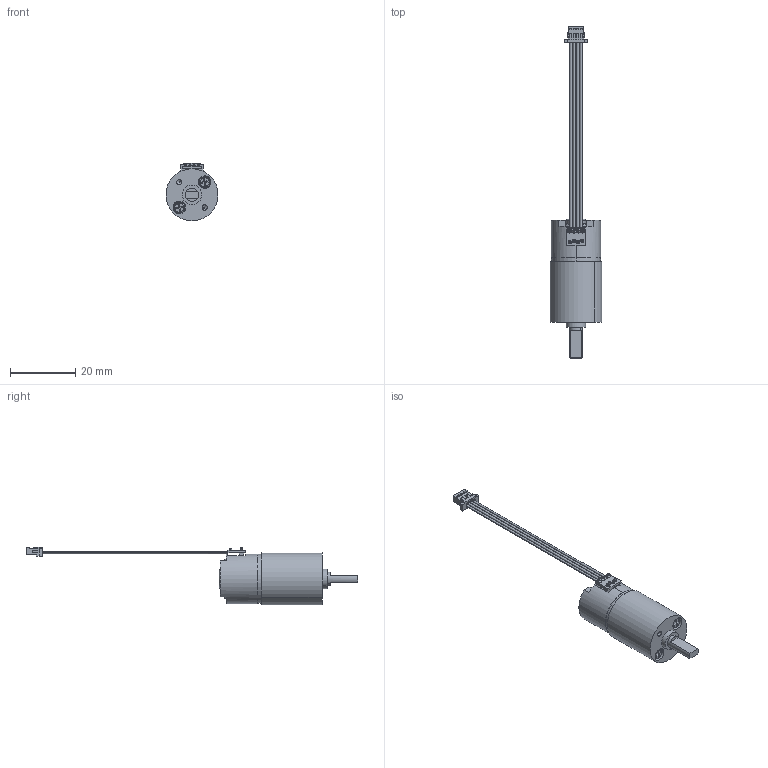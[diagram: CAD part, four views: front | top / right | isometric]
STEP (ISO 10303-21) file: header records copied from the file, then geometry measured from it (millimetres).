
FILE_DESCRIPTION (( 'STEP AP214' ), '1' );
FILE_NAME ('15SGxxR420.STEP', '2016-05-17T15:34:43', ( '' ), ( '' ), 'SwSTEP 2.0', 'SolidWorks 2015', '' );
FILE_SCHEMA (( 'AUTOMOTIVE_DESIGN' ));
Length unit declared in the file: millimetre
Products named in the file (4): 15SGxxR420; PM 15SG_Med fl„ns; skruv m1.7; Gearbox 420.1
Assembly tree (4 placements, depth 2):
  15SGxxR420
    PM 15SG_Med fl„ns
    Gearbox 420.1
    skruv m1.7  x2
Bounding box: 15.94 x 101.9 x 17.67 mm (x, y, z)
Volume: 5973.2 mm3; surface area: 4185.7 mm2
Topology: 6 solids, 6 shells, 906 faces, 2411 edges, 1577 vertices
Faces by surface type: plane 572, cylinder 176, bspline 130, torus 20, cone 8
Entity records: 35476 total; most frequent: CARTESIAN_POINT 7925, ORIENTED_EDGE 4654, DIRECTION 3991, EDGE_CURVE 2327, VECTOR 1661, LINE 1661, VERTEX_POINT 1531, AXIS2_PLACEMENT_3D 1165
